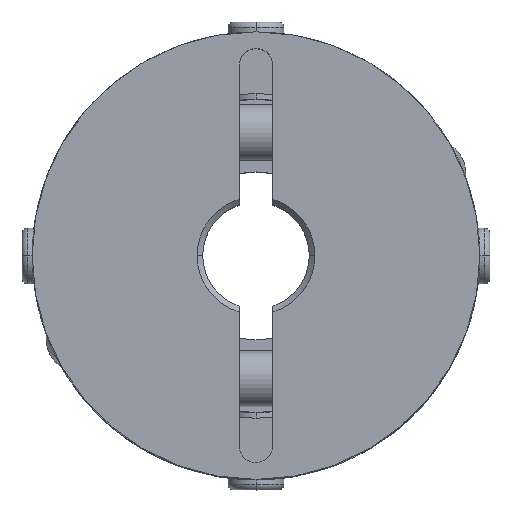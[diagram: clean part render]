
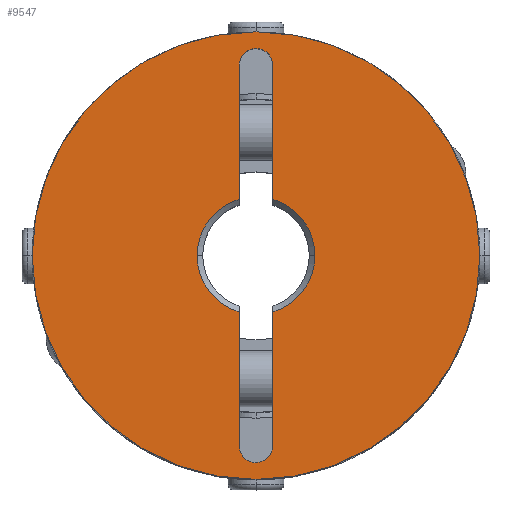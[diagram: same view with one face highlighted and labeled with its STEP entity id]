
A CAD part, top view. The second image highlights one B-rep face of the part: STEP entity #9547.
In plain terms, the highlighted planar face has unit normal (0, 0, 1).
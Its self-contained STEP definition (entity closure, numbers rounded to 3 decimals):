
#829=CARTESIAN_POINT('',(-20.0,0.,20.0));
#830=VERTEX_POINT('',#829);
#837=CARTESIAN_POINT('',(20.0,0.0,20.0));
#838=VERTEX_POINT('',#837);
#839=CARTESIAN_POINT('',(0.0,0.0,20.0));
#840=DIRECTION('',(0.0,0.0,-1.0));
#841=DIRECTION('',(1.0,0.0,0.0));
#842=AXIS2_PLACEMENT_3D('',#839,#840,#841);
#843=CIRCLE('',#842,20.0);
#844=EDGE_CURVE('',#830,#838,#843,.T.);
#1155=CARTESIAN_POINT('',(-1.061,18.061,20.0));
#1156=VERTEX_POINT('',#1155);
#1172=CARTESIAN_POINT('',(1.5,17.,20.0));
#1173=VERTEX_POINT('',#1172);
#1180=CARTESIAN_POINT('',(0.,17.,20.0));
#1181=DIRECTION('',(0.0,0.0,1.));
#1182=DIRECTION('',(0.707,0.707,0.0));
#1183=AXIS2_PLACEMENT_3D('',#1180,#1181,#1182);
#1184=CIRCLE('',#1183,1.5);
#1185=EDGE_CURVE('',#1173,#1156,#1184,.T.);
#1197=CARTESIAN_POINT('',(1.061,-18.061,20.0));
#1198=VERTEX_POINT('',#1197);
#1214=CARTESIAN_POINT('',(-1.5,-17.,20.0));
#1215=VERTEX_POINT('',#1214);
#1222=CARTESIAN_POINT('',(0.0,-17.,20.0));
#1223=DIRECTION('',(0.0,0.0,1.0));
#1224=DIRECTION('',(-0.707,-0.707,0.0));
#1225=AXIS2_PLACEMENT_3D('',#1222,#1223,#1224);
#1226=CIRCLE('',#1225,1.5);
#1227=EDGE_CURVE('',#1215,#1198,#1226,.T.);
#1237=CARTESIAN_POINT('',(-5.263,0.,20.0));
#1238=VERTEX_POINT('',#1237);
#1245=CARTESIAN_POINT('',(-1.5,-5.044,20.0));
#1246=VERTEX_POINT('',#1245);
#1247=CARTESIAN_POINT('',(0.0,0.0,20.0));
#1248=DIRECTION('',(0.0,0.0,1.0));
#1249=DIRECTION('',(-1.0,0.0,0.0));
#1250=AXIS2_PLACEMENT_3D('',#1247,#1248,#1249);
#1251=CIRCLE('',#1250,5.263);
#1252=EDGE_CURVE('',#1238,#1246,#1251,.T.);
#1276=CARTESIAN_POINT('',(5.263,0.,20.0));
#1277=VERTEX_POINT('',#1276);
#1284=CARTESIAN_POINT('',(1.5,5.044,20.0));
#1285=VERTEX_POINT('',#1284);
#1286=CARTESIAN_POINT('',(0.0,0.0,20.0));
#1287=DIRECTION('',(0.0,0.0,1.0));
#1288=DIRECTION('',(1.0,0.0,0.0));
#1289=AXIS2_PLACEMENT_3D('',#1286,#1287,#1288);
#1290=CIRCLE('',#1289,5.263);
#1291=EDGE_CURVE('',#1277,#1285,#1290,.T.);
#9352=CARTESIAN_POINT('',(-1.5,17.,20.0));
#9353=VERTEX_POINT('',#9352);
#9360=CARTESIAN_POINT('',(-1.5,5.044,20.0));
#9361=VERTEX_POINT('',#9360);
#9362=CARTESIAN_POINT('',(-1.5,5.044,20.0));
#9363=DIRECTION('',(0.0,1.0,0.0));
#9364=VECTOR('',#9363,11.956);
#9365=LINE('',#9362,#9364);
#9366=EDGE_CURVE('',#9361,#9353,#9365,.T.);
#9441=CARTESIAN_POINT('',(1.5,17.,20.0));
#9442=DIRECTION('',(0.0,-1.0,0.0));
#9443=VECTOR('',#9442,11.956);
#9444=LINE('',#9441,#9443);
#9445=EDGE_CURVE('',#1173,#1285,#9444,.T.);
#9463=CARTESIAN_POINT('',(1.5,-5.044,20.0));
#9464=VERTEX_POINT('',#9463);
#9478=CARTESIAN_POINT('',(0.0,0.0,20.0));
#9479=DIRECTION('',(0.0,0.0,1.0));
#9480=DIRECTION('',(1.0,0.0,0.0));
#9481=AXIS2_PLACEMENT_3D('',#9478,#9479,#9480);
#9482=CIRCLE('',#9481,5.263);
#9483=EDGE_CURVE('',#9464,#1277,#9482,.T.);
#9488=CARTESIAN_POINT('',(1.818,0.,20.0));
#9489=DIRECTION('',(0.0,0.0,1.0));
#9490=DIRECTION('',(1.0,0.0,0.0));
#9491=AXIS2_PLACEMENT_3D('',#9488,#9489,#9490);
#9492=PLANE('',#9491);
#9493=CARTESIAN_POINT('',(0.0,0.0,20.0));
#9494=DIRECTION('',(0.0,0.0,-1.0));
#9495=DIRECTION('',(1.0,0.0,0.0));
#9496=AXIS2_PLACEMENT_3D('',#9493,#9494,#9495);
#9497=CIRCLE('',#9496,20.0);
#9498=EDGE_CURVE('',#838,#830,#9497,.T.);
#9499=ORIENTED_EDGE('',*,*,#9498,.F.);
#9500=ORIENTED_EDGE('',*,*,#844,.F.);
#9501=EDGE_LOOP('',(#9499,#9500));
#9502=FACE_OUTER_BOUND('',#9501,.T.);
#9503=ORIENTED_EDGE('',*,*,#9483,.F.);
#9504=CARTESIAN_POINT('',(1.5,-17.,20.0));
#9505=VERTEX_POINT('',#9504);
#9506=CARTESIAN_POINT('',(1.5,-5.044,20.0));
#9507=DIRECTION('',(0.0,-1.0,0.0));
#9508=VECTOR('',#9507,11.956);
#9509=LINE('',#9506,#9508);
#9510=EDGE_CURVE('',#9464,#9505,#9509,.T.);
#9511=ORIENTED_EDGE('',*,*,#9510,.T.);
#9512=CARTESIAN_POINT('',(0.0,-17.,20.0));
#9513=DIRECTION('',(0.0,0.0,1.0));
#9514=DIRECTION('',(-0.707,-0.707,0.0));
#9515=AXIS2_PLACEMENT_3D('',#9512,#9513,#9514);
#9516=CIRCLE('',#9515,1.5);
#9517=EDGE_CURVE('',#1198,#9505,#9516,.T.);
#9518=ORIENTED_EDGE('',*,*,#9517,.F.);
#9519=ORIENTED_EDGE('',*,*,#1227,.F.);
#9520=CARTESIAN_POINT('',(-1.5,-17.,20.0));
#9521=DIRECTION('',(0.0,1.0,0.0));
#9522=VECTOR('',#9521,11.956);
#9523=LINE('',#9520,#9522);
#9524=EDGE_CURVE('',#1215,#1246,#9523,.T.);
#9525=ORIENTED_EDGE('',*,*,#9524,.T.);
#9526=ORIENTED_EDGE('',*,*,#1252,.F.);
#9527=CARTESIAN_POINT('',(0.0,0.0,20.0));
#9528=DIRECTION('',(0.0,0.0,1.0));
#9529=DIRECTION('',(-1.0,0.0,0.0));
#9530=AXIS2_PLACEMENT_3D('',#9527,#9528,#9529);
#9531=CIRCLE('',#9530,5.263);
#9532=EDGE_CURVE('',#9361,#1238,#9531,.T.);
#9533=ORIENTED_EDGE('',*,*,#9532,.F.);
#9534=ORIENTED_EDGE('',*,*,#9366,.T.);
#9535=CARTESIAN_POINT('',(0.,17.,20.0));
#9536=DIRECTION('',(0.0,0.0,1.));
#9537=DIRECTION('',(0.707,0.707,0.0));
#9538=AXIS2_PLACEMENT_3D('',#9535,#9536,#9537);
#9539=CIRCLE('',#9538,1.5);
#9540=EDGE_CURVE('',#1156,#9353,#9539,.T.);
#9541=ORIENTED_EDGE('',*,*,#9540,.F.);
#9542=ORIENTED_EDGE('',*,*,#1185,.F.);
#9543=ORIENTED_EDGE('',*,*,#9445,.T.);
#9544=ORIENTED_EDGE('',*,*,#1291,.F.);
#9545=EDGE_LOOP('',(#9503,#9511,#9518,#9519,#9525,#9526,#9533,#9534,#9541,#9542,#9543,#9544));
#9546=FACE_BOUND('',#9545,.T.);
#9547=ADVANCED_FACE('',(#9502,#9546),#9492,.T.);
